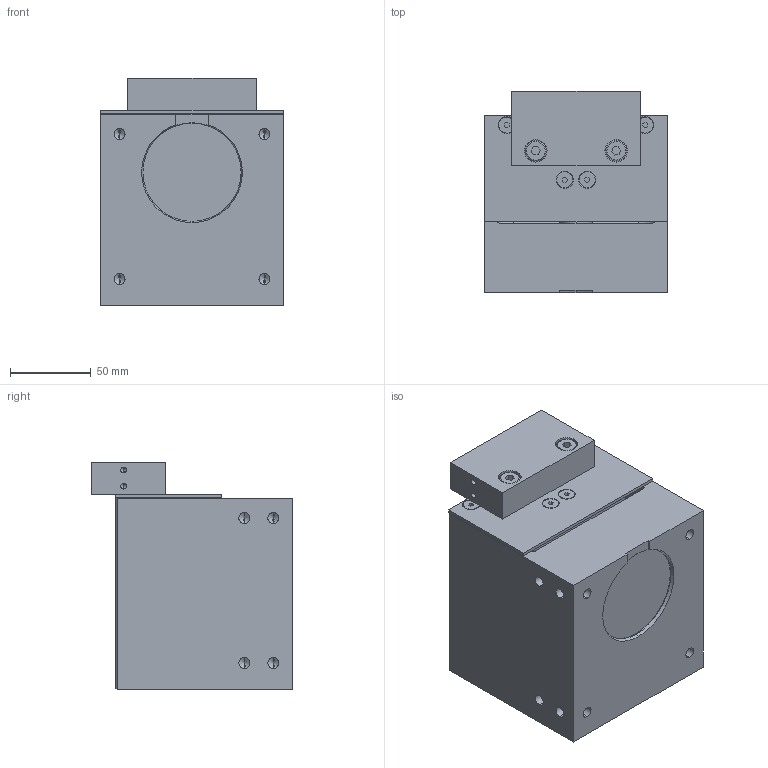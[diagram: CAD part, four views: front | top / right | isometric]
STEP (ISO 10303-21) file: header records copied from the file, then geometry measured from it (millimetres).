
FILE_DESCRIPTION (( 'STEP AP203' ), '1' );
FILE_NAME ('DBS-900-15-EW_oben_eingefahren~1.STEP', '2022-02-04T06:36:05', ( '' ), ( '' ), 'SwSTEP 2.0', 'SolidWorks 2019', '' );
FILE_SCHEMA (( 'CONFIG_CONTROL_DESIGN' ));
Length unit declared in the file: millimetre
Products named in the file (1): DBS-900-15-EW_oben_eingefahren~1
Bounding box: 114 x 124.95 x 141.5 mm (x, y, z)
Volume: 1367007.2 mm3; surface area: 161397.2 mm2
Topology: 1 solids, 3 shells, 288 faces, 720 edges, 425 vertices
Faces by surface type: cylinder 121, plane 100, cone 61, torus 6
Entity records: 8762 total; most frequent: CARTESIAN_POINT 1878, DIRECTION 1463, ORIENTED_EDGE 1372, EDGE_CURVE 686, AXIS2_PLACEMENT_3D 538, VERTEX_POINT 425, VECTOR 387, LINE 387
